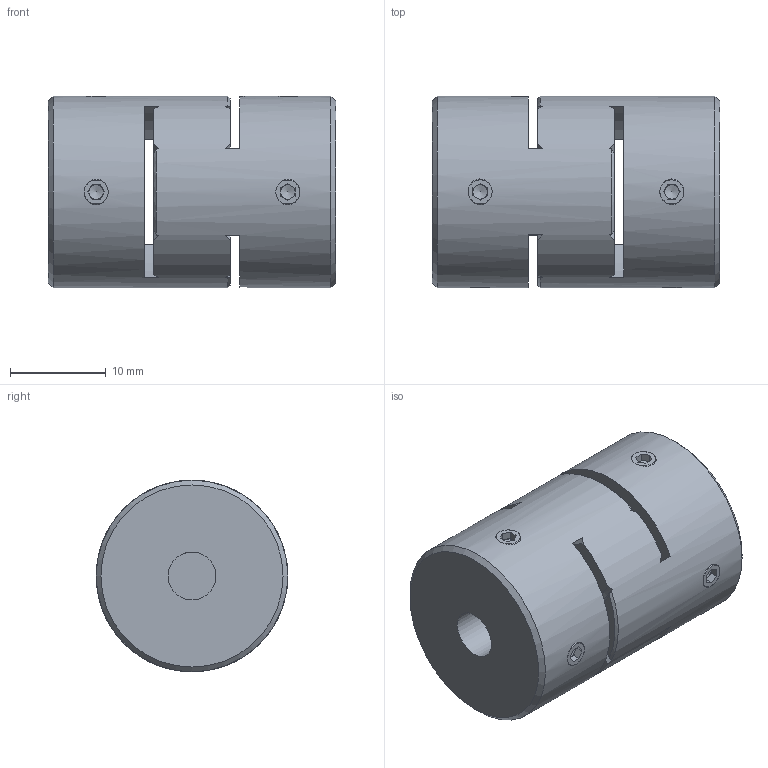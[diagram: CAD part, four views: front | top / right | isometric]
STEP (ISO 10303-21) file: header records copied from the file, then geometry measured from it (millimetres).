
FILE_DESCRIPTION( ( 'Unknown' ), '1' );
FILE_NAME( 'F:/JAKOB-STEP+IGES-Dateien/STEP-Dateien/MJT/MJT 20.stp', 'Unknown', ( 'Unknown' ), ( 'Unknown' ), 'PSStep 10.1', 'Unknown', ' ' );
FILE_SCHEMA( ( 'AUTOMOTIVE_DESIGN { 1 0 10303 214 1 1 1 1 }' ) );
Length unit declared in the file: millimetre
Products named in the file (1): KT100049-oa3
Bounding box: 30 x 20 x 20 mm (x, y, z)
Volume: 8027.6 mm3; surface area: 4094.7 mm2
Topology: 1 solids, 1 shells, 157 faces, 387 edges, 237 vertices
Faces by surface type: plane 68, cone 48, cylinder 41
Full cylindrical faces by diameter (mm): 2.5 x4, 5 x2, 8 x2, 20 x1
Entity records: 6014 total; most frequent: CARTESIAN_POINT 1150, DIRECTION 792, ORIENTED_EDGE 700, EDGE_CURVE 350, AXIS2_PLACEMENT_3D 328, VERTEX_POINT 226, EDGE_LOOP 192, CIRCLE 170
